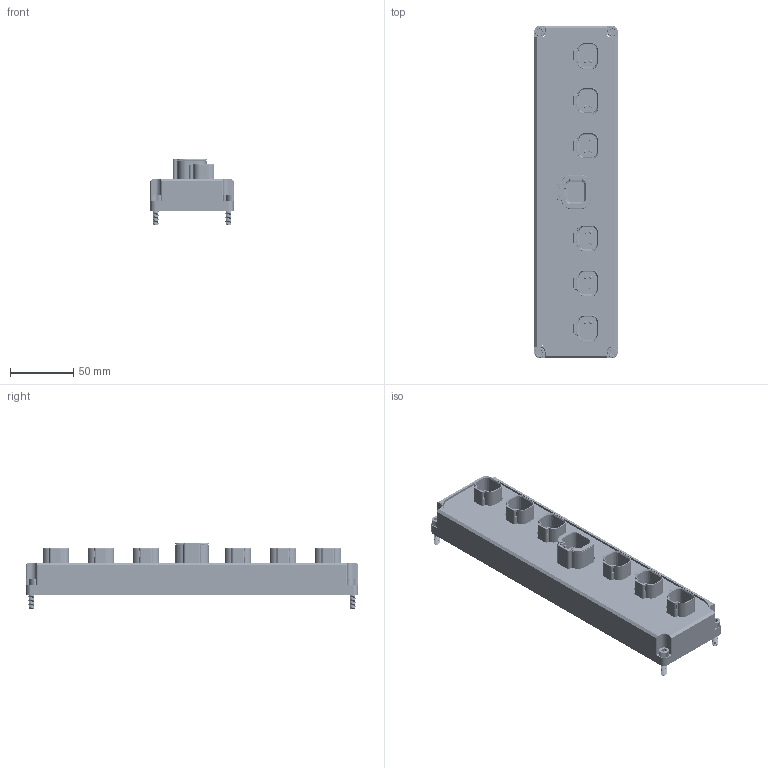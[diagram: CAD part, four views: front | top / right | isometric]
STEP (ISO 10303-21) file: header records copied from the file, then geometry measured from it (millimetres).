
FILE_DESCRIPTION(/* description */ (''),/* implementation_level */ '2;1');
FILE_NAME(/* name */ 'C:/Users/Jamie/Downloads/25 AMP Version Army Core.step',/* time_stamp */ '2021-03-04T15:46:04-05:00',/* author */ (''),/* organization */ (''),/* preprocessor_version */ 'ST-DEVELOPER v18.1',/* originating_system */ 'Autodesk Translation Framework v9.10.0.1330',/* authorisation */ '');
FILE_SCHEMA (('AUTOMOTIVE_DESIGN { 1 0 10303 214 3 1 1 }'));
Products named in the file (5): 25 AMP Version; c-dtp15-4p-99-3d v1; c-dt15-4p-99-3d; c-dt15-4p-99-3d v1(Mirror); 92196A245
Assembly tree (11 placements, depth 2):
  25 AMP Version
    c-dt15-4p-99-3d  x3
    c-dtp15-4p-99-3d v1
    c-dt15-4p-99-3d v1(Mirror)  x3
    92196A245  x4
Bounding box: 65.79 x 261.88 x 52.5 mm (x, y, z)
Volume: 238101.1 mm3; surface area: 147386.6 mm2
Topology: 14 solids, 14 shells, 4112 faces, 10184 edges, 6280 vertices
Faces by surface type: plane 1671, cylinder 1344, torus 616, cone 356, bspline 73, sphere 52
Full cylindrical faces by diameter (mm): 1.567 x48, 2.388 x8, 2.794 x2, 3.175 x26, 3.451 x68, 3.683 x14, 4.826 x68, 5.08 x4, 5.105 x4, 6.604 x26, 8.128 x6, 8.382 x2
Entity records: 74875 total; most frequent: CARTESIAN_POINT 25077, DIRECTION 10656, ORIENTED_EDGE 10294, EDGE_CURVE 5147, AXIS2_PLACEMENT_3D 4035, VERTEX_POINT 3222, LINE 2586, VECTOR 2586
